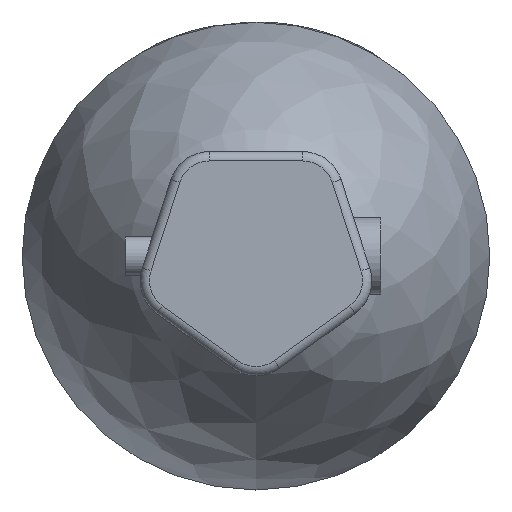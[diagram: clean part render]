
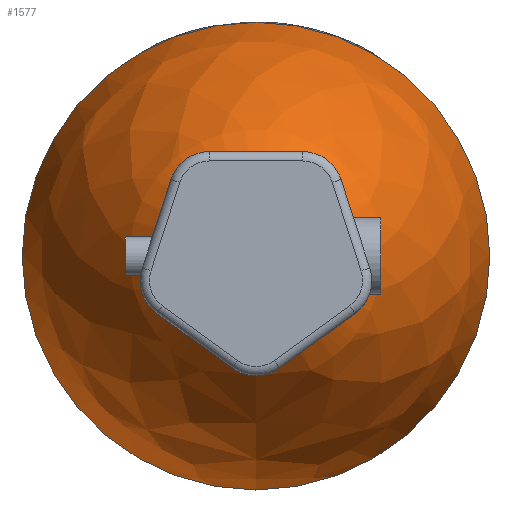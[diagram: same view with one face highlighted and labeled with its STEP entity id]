
A CAD part, left-side view. The second image highlights one B-rep face of the part: STEP entity #1577.
In plain terms, the highlighted free-form (B-spline) face has degree [2, 2] with [3, 9] control points.
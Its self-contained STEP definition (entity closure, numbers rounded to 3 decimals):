
#15=(
BOUNDED_CURVE()
B_SPLINE_CURVE(2,(#3443,#3444,#3445),.UNSPECIFIED.,.F.,.F.)
B_SPLINE_CURVE_WITH_KNOTS((3,3),(-0.905,-0.114),
 .UNSPECIFIED.)
CURVE()
GEOMETRIC_REPRESENTATION_ITEM()
RATIONAL_B_SPLINE_CURVE((1.,0.923,1.))
REPRESENTATION_ITEM('')
);
#17=(
BOUNDED_SURFACE()
B_SPLINE_SURFACE(2,2,((#3412,#3413,#3414,#3415,#3416,#3417,#3418,#3419,
#3420),(#3421,#3422,#3423,#3424,#3425,#3426,#3427,#3428,#3429),(#3430,#3431,
#3432,#3433,#3434,#3435,#3436,#3437,#3438)),.UNSPECIFIED.,.F.,.T.,.F.)
B_SPLINE_SURFACE_WITH_KNOTS((3,3),(3,2,2,2,3),(0.114,0.905),
(-3.142,-1.571,0.,1.571,3.142),
 .UNSPECIFIED.)
GEOMETRIC_REPRESENTATION_ITEM()
RATIONAL_B_SPLINE_SURFACE(((1.,0.707,1.,0.707,1.,
0.707,1.,0.707,1.),(0.923,0.653,
0.923,0.653,0.923,0.653,
0.923,0.653,0.923),(1.,0.707,
1.,0.707,1.,0.707,1.,0.707,1.)))
REPRESENTATION_ITEM('')
SURFACE()
);
#64=CIRCLE('',#1630,75.);
#65=CIRCLE('',#1631,75.);
#108=CIRCLE('',#1709,20.);
#109=CIRCLE('',#1710,20.);
#321=FACE_OUTER_BOUND('',#440,.T.);
#440=EDGE_LOOP('',(#1353,#1354,#1355,#1356,#1357,#1358));
#764=VERTEX_POINT('',#3144);
#765=VERTEX_POINT('',#3145);
#813=VERTEX_POINT('',#3439);
#814=VERTEX_POINT('',#3440);
#942=EDGE_CURVE('',#764,#765,#64,.T.);
#943=EDGE_CURVE('',#765,#764,#65,.T.);
#1007=EDGE_CURVE('',#813,#814,#108,.T.);
#1008=EDGE_CURVE('',#814,#813,#109,.T.);
#1009=EDGE_CURVE('',#814,#765,#15,.T.);
#1353=ORIENTED_EDGE('',*,*,#1007,.F.);
#1354=ORIENTED_EDGE('',*,*,#1008,.F.);
#1355=ORIENTED_EDGE('',*,*,#1009,.T.);
#1356=ORIENTED_EDGE('',*,*,#943,.T.);
#1357=ORIENTED_EDGE('',*,*,#942,.T.);
#1358=ORIENTED_EDGE('',*,*,#1009,.F.);
#1577=ADVANCED_FACE('',(#321),#17,.F.);
#1630=AXIS2_PLACEMENT_3D('',#3146,#1828,#1829);
#1631=AXIS2_PLACEMENT_3D('',#3147,#1830,#1831);
#1709=AXIS2_PLACEMENT_3D('',#3441,#2004,#2005);
#1710=AXIS2_PLACEMENT_3D('',#3442,#2006,#2007);
#1828=DIRECTION('center_axis',(-1.,0.,0.));
#1829=DIRECTION('ref_axis',(0.,0.,1.));
#1830=DIRECTION('center_axis',(-1.,0.,0.));
#1831=DIRECTION('ref_axis',(0.,0.,1.));
#2004=DIRECTION('center_axis',(-1.,0.,0.));
#2005=DIRECTION('ref_axis',(0.,0.,1.));
#2006=DIRECTION('center_axis',(-1.,0.,0.));
#2007=DIRECTION('ref_axis',(0.,0.,1.));
#3144=CARTESIAN_POINT('',(-461.493,0.,75.));
#3145=CARTESIAN_POINT('',(-461.493,0.,-75.));
#3146=CARTESIAN_POINT('Origin',(-461.493,0.,0.));
#3147=CARTESIAN_POINT('Origin',(-461.493,0.,0.));
#3412=CARTESIAN_POINT('Ctrl Pts',(-461.493,0.,-75.));
#3413=CARTESIAN_POINT('Ctrl Pts',(-461.493,-75.,-75.));
#3414=CARTESIAN_POINT('Ctrl Pts',(-461.493,-75.,0.));
#3415=CARTESIAN_POINT('Ctrl Pts',(-461.493,-75.,75.));
#3416=CARTESIAN_POINT('Ctrl Pts',(-461.493,0.,75.));
#3417=CARTESIAN_POINT('Ctrl Pts',(-461.493,75.,75.));
#3418=CARTESIAN_POINT('Ctrl Pts',(-461.493,75.,0.));
#3419=CARTESIAN_POINT('Ctrl Pts',(-461.493,75.,-75.));
#3420=CARTESIAN_POINT('Ctrl Pts',(-461.493,0.,-75.));
#3421=CARTESIAN_POINT('Ctrl Pts',(-522.225,0.,-68.057));
#3422=CARTESIAN_POINT('Ctrl Pts',(-522.225,-68.057,-68.057));
#3423=CARTESIAN_POINT('Ctrl Pts',(-522.225,-68.057,0.));
#3424=CARTESIAN_POINT('Ctrl Pts',(-522.225,-68.057,68.057));
#3425=CARTESIAN_POINT('Ctrl Pts',(-522.225,0.,68.057));
#3426=CARTESIAN_POINT('Ctrl Pts',(-522.225,68.057,68.057));
#3427=CARTESIAN_POINT('Ctrl Pts',(-522.225,68.057,0.));
#3428=CARTESIAN_POINT('Ctrl Pts',(-522.225,68.057,-68.057));
#3429=CARTESIAN_POINT('Ctrl Pts',(-522.225,0.,-68.057));
#3430=CARTESIAN_POINT('Ctrl Pts',(-560.,0.,-20.));
#3431=CARTESIAN_POINT('Ctrl Pts',(-560.,-20.,-20.));
#3432=CARTESIAN_POINT('Ctrl Pts',(-560.,-20.,0.));
#3433=CARTESIAN_POINT('Ctrl Pts',(-560.,-20.,20.));
#3434=CARTESIAN_POINT('Ctrl Pts',(-560.,0.,20.));
#3435=CARTESIAN_POINT('Ctrl Pts',(-560.,20.,20.));
#3436=CARTESIAN_POINT('Ctrl Pts',(-560.,20.,0.));
#3437=CARTESIAN_POINT('Ctrl Pts',(-560.,20.,-20.));
#3438=CARTESIAN_POINT('Ctrl Pts',(-560.,0.,-20.));
#3439=CARTESIAN_POINT('',(-560.,0.,20.));
#3440=CARTESIAN_POINT('',(-560.,0.,-20.));
#3441=CARTESIAN_POINT('Origin',(-560.,0.,0.));
#3442=CARTESIAN_POINT('Origin',(-560.,0.,0.));
#3443=CARTESIAN_POINT('Ctrl Pts',(-560.,0.,-20.));
#3444=CARTESIAN_POINT('Ctrl Pts',(-522.225,0.,-68.057));
#3445=CARTESIAN_POINT('Ctrl Pts',(-461.493,0.,-75.));
